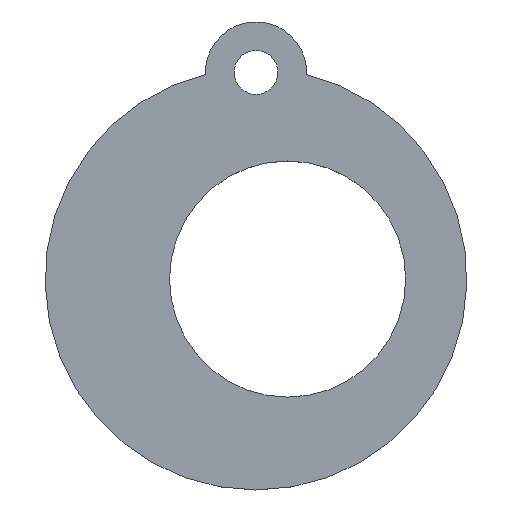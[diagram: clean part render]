
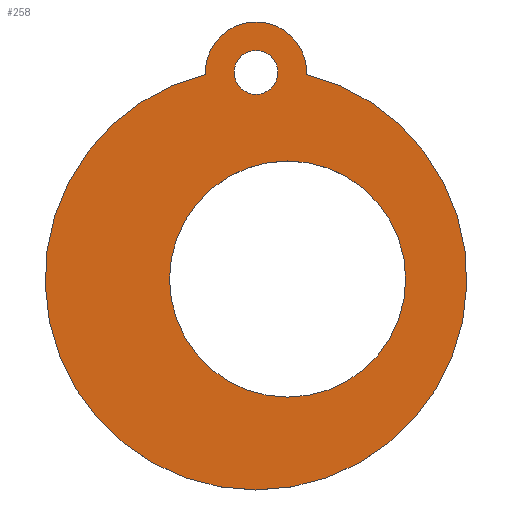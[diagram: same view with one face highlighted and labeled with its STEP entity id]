
A CAD part, top view. The second image highlights one B-rep face of the part: STEP entity #258.
In plain terms, the highlighted planar face has unit normal (0, 0, 1).
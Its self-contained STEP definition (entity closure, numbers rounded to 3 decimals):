
#33 = CYLINDRICAL_SURFACE('',#34,16.);
#34 = AXIS2_PLACEMENT_3D('',#35,#36,#37);
#35 = CARTESIAN_POINT('',(0.,0.,0.));
#36 = DIRECTION('',(-0.,-0.,-1.));
#37 = DIRECTION('',(1.,0.,-0.));
#58 = VERTEX_POINT('',#59);
#59 = CARTESIAN_POINT('',(-3.837,15.533,2.4));
#72 = CYLINDRICAL_SURFACE('',#73,3.84);
#73 = AXIS2_PLACEMENT_3D('',#74,#75,#76);
#74 = CARTESIAN_POINT('',(0.,15.68,0.));
#75 = DIRECTION('',(-0.,-0.,-1.));
#76 = DIRECTION('',(1.,0.,-0.));
#83 = EDGE_CURVE('',#84,#58,#86,.T.);
#84 = VERTEX_POINT('',#85);
#85 = CARTESIAN_POINT('',(3.837,15.533,2.4));
#86 = SURFACE_CURVE('',#87,(#92,#99),.PCURVE_S1.);
#87 = CIRCLE('',#88,16.);
#88 = AXIS2_PLACEMENT_3D('',#89,#90,#91);
#89 = CARTESIAN_POINT('',(0.,0.,2.4));
#90 = DIRECTION('',(0.,0.,-1.));
#91 = DIRECTION('',(0.24,0.971,0.));
#92 = PCURVE('',#33,#93);
#93 = DEFINITIONAL_REPRESENTATION('',(#94),#98);
#94 = LINE('',#95,#96);
#95 = CARTESIAN_POINT('',(-7.612,-2.4));
#96 = VECTOR('',#97,1.);
#97 = DIRECTION('',(1.,-0.));
#98 = ( GEOMETRIC_REPRESENTATION_CONTEXT(2) 
PARAMETRIC_REPRESENTATION_CONTEXT() REPRESENTATION_CONTEXT('2D SPACE',''
  ) );
#99 = PCURVE('',#100,#105);
#100 = PLANE('',#101);
#101 = AXIS2_PLACEMENT_3D('',#102,#103,#104);
#102 = CARTESIAN_POINT('',(0.,0.,2.4));
#103 = DIRECTION('',(0.,0.,1.));
#104 = DIRECTION('',(1.,0.,-0.));
#105 = DEFINITIONAL_REPRESENTATION('',(#106),#114);
#106 = ( BOUNDED_CURVE() B_SPLINE_CURVE(2,(#107,#108,#109,#110,#111,#112
,#113),.UNSPECIFIED.,.T.,.F.) B_SPLINE_CURVE_WITH_KNOTS((1,2,2,2,2,1),(
    -2.094,0.,2.094,4.189,6.283,
8.378),.UNSPECIFIED.) CURVE() GEOMETRIC_REPRESENTATION_ITEM() 
RATIONAL_B_SPLINE_CURVE((1.,0.5,1.,0.5,1.,0.5,1.)) REPRESENTATION_ITEM(
  '') );
#107 = CARTESIAN_POINT('',(3.837,15.533));
#108 = CARTESIAN_POINT('',(30.741,8.887));
#109 = CARTESIAN_POINT('',(11.533,-11.09));
#110 = CARTESIAN_POINT('',(-7.674,-31.066));
#111 = CARTESIAN_POINT('',(-15.371,-4.443));
#112 = CARTESIAN_POINT('',(-23.067,22.179));
#113 = CARTESIAN_POINT('',(3.837,15.533));
#114 = ( GEOMETRIC_REPRESENTATION_CONTEXT(2) 
PARAMETRIC_REPRESENTATION_CONTEXT() REPRESENTATION_CONTEXT('2D SPACE',''
  ) );
#184 = CYLINDRICAL_SURFACE('',#185,8.96);
#185 = AXIS2_PLACEMENT_3D('',#186,#187,#188);
#186 = CARTESIAN_POINT('',(2.4,0.,0.));
#187 = DIRECTION('',(-0.,-0.,-1.));
#188 = DIRECTION('',(1.,0.,-0.));
#215 = CYLINDRICAL_SURFACE('',#216,1.664);
#216 = AXIS2_PLACEMENT_3D('',#217,#218,#219);
#217 = CARTESIAN_POINT('',(0.,15.68,0.));
#218 = DIRECTION('',(-0.,-0.,-1.));
#219 = DIRECTION('',(1.,0.,-0.));
#230 = EDGE_CURVE('',#58,#84,#231,.T.);
#231 = SURFACE_CURVE('',#232,(#237,#244),.PCURVE_S1.);
#232 = CIRCLE('',#233,3.84);
#233 = AXIS2_PLACEMENT_3D('',#234,#235,#236);
#234 = CARTESIAN_POINT('',(0.,15.68,2.4));
#235 = DIRECTION('',(-0.,0.,-1.));
#236 = DIRECTION('',(-0.999,-0.038,0.));
#237 = PCURVE('',#72,#238);
#238 = DEFINITIONAL_REPRESENTATION('',(#239),#243);
#239 = LINE('',#240,#241);
#240 = CARTESIAN_POINT('',(-9.463,-2.4));
#241 = VECTOR('',#242,1.);
#242 = DIRECTION('',(1.,-0.));
#243 = ( GEOMETRIC_REPRESENTATION_CONTEXT(2) 
PARAMETRIC_REPRESENTATION_CONTEXT() REPRESENTATION_CONTEXT('2D SPACE',''
  ) );
#244 = PCURVE('',#100,#245);
#245 = DEFINITIONAL_REPRESENTATION('',(#246),#254);
#246 = ( BOUNDED_CURVE() B_SPLINE_CURVE(2,(#247,#248,#249,#250,#251,#252
,#253),.UNSPECIFIED.,.T.,.F.) B_SPLINE_CURVE_WITH_KNOTS((1,2,2,2,2,1),(
    -2.094,0.,2.094,4.189,6.283,
8.378),.UNSPECIFIED.) CURVE() GEOMETRIC_REPRESENTATION_ITEM() 
RATIONAL_B_SPLINE_CURVE((1.,0.5,1.,0.5,1.,0.5,1.)) REPRESENTATION_ITEM(
  '') );
#247 = CARTESIAN_POINT('',(-3.837,15.533));
#248 = CARTESIAN_POINT('',(-4.092,22.179));
#249 = CARTESIAN_POINT('',(1.791,19.077));
#250 = CARTESIAN_POINT('',(7.674,15.974));
#251 = CARTESIAN_POINT('',(2.046,12.43));
#252 = CARTESIAN_POINT('',(-3.583,8.887));
#253 = CARTESIAN_POINT('',(-3.837,15.533));
#254 = ( GEOMETRIC_REPRESENTATION_CONTEXT(2) 
PARAMETRIC_REPRESENTATION_CONTEXT() REPRESENTATION_CONTEXT('2D SPACE',''
  ) );
#258 = ADVANCED_FACE('',(#259,#263,#289),#100,.T.);
#259 = FACE_BOUND('',#260,.T.);
#260 = EDGE_LOOP('',(#261,#262));
#261 = ORIENTED_EDGE('',*,*,#83,.F.);
#262 = ORIENTED_EDGE('',*,*,#230,.F.);
#263 = FACE_BOUND('',#264,.T.);
#264 = EDGE_LOOP('',(#265));
#265 = ORIENTED_EDGE('',*,*,#266,.F.);
#266 = EDGE_CURVE('',#267,#267,#269,.T.);
#267 = VERTEX_POINT('',#268);
#268 = CARTESIAN_POINT('',(11.36,0.,2.4));
#269 = SURFACE_CURVE('',#270,(#275,#282),.PCURVE_S1.);
#270 = CIRCLE('',#271,8.96);
#271 = AXIS2_PLACEMENT_3D('',#272,#273,#274);
#272 = CARTESIAN_POINT('',(2.4,0.,2.4));
#273 = DIRECTION('',(0.,0.,1.));
#274 = DIRECTION('',(1.,0.,-0.));
#275 = PCURVE('',#100,#276);
#276 = DEFINITIONAL_REPRESENTATION('',(#277),#281);
#277 = CIRCLE('',#278,8.96);
#278 = AXIS2_PLACEMENT_2D('',#279,#280);
#279 = CARTESIAN_POINT('',(2.4,0.));
#280 = DIRECTION('',(1.,0.));
#281 = ( GEOMETRIC_REPRESENTATION_CONTEXT(2) 
PARAMETRIC_REPRESENTATION_CONTEXT() REPRESENTATION_CONTEXT('2D SPACE',''
  ) );
#282 = PCURVE('',#184,#283);
#283 = DEFINITIONAL_REPRESENTATION('',(#284),#288);
#284 = LINE('',#285,#286);
#285 = CARTESIAN_POINT('',(-0.,-2.4));
#286 = VECTOR('',#287,1.);
#287 = DIRECTION('',(-1.,0.));
#288 = ( GEOMETRIC_REPRESENTATION_CONTEXT(2) 
PARAMETRIC_REPRESENTATION_CONTEXT() REPRESENTATION_CONTEXT('2D SPACE',''
  ) );
#289 = FACE_BOUND('',#290,.T.);
#290 = EDGE_LOOP('',(#291));
#291 = ORIENTED_EDGE('',*,*,#292,.F.);
#292 = EDGE_CURVE('',#293,#293,#295,.T.);
#293 = VERTEX_POINT('',#294);
#294 = CARTESIAN_POINT('',(1.664,15.68,2.4));
#295 = SURFACE_CURVE('',#296,(#301,#308),.PCURVE_S1.);
#296 = CIRCLE('',#297,1.664);
#297 = AXIS2_PLACEMENT_3D('',#298,#299,#300);
#298 = CARTESIAN_POINT('',(0.,15.68,2.4));
#299 = DIRECTION('',(0.,0.,1.));
#300 = DIRECTION('',(1.,0.,-0.));
#301 = PCURVE('',#100,#302);
#302 = DEFINITIONAL_REPRESENTATION('',(#303),#307);
#303 = CIRCLE('',#304,1.664);
#304 = AXIS2_PLACEMENT_2D('',#305,#306);
#305 = CARTESIAN_POINT('',(0.,15.68));
#306 = DIRECTION('',(1.,0.));
#307 = ( GEOMETRIC_REPRESENTATION_CONTEXT(2) 
PARAMETRIC_REPRESENTATION_CONTEXT() REPRESENTATION_CONTEXT('2D SPACE',''
  ) );
#308 = PCURVE('',#215,#309);
#309 = DEFINITIONAL_REPRESENTATION('',(#310),#314);
#310 = LINE('',#311,#312);
#311 = CARTESIAN_POINT('',(-0.,-2.4));
#312 = VECTOR('',#313,1.);
#313 = DIRECTION('',(-1.,0.));
#314 = ( GEOMETRIC_REPRESENTATION_CONTEXT(2) 
PARAMETRIC_REPRESENTATION_CONTEXT() REPRESENTATION_CONTEXT('2D SPACE',''
  ) );
